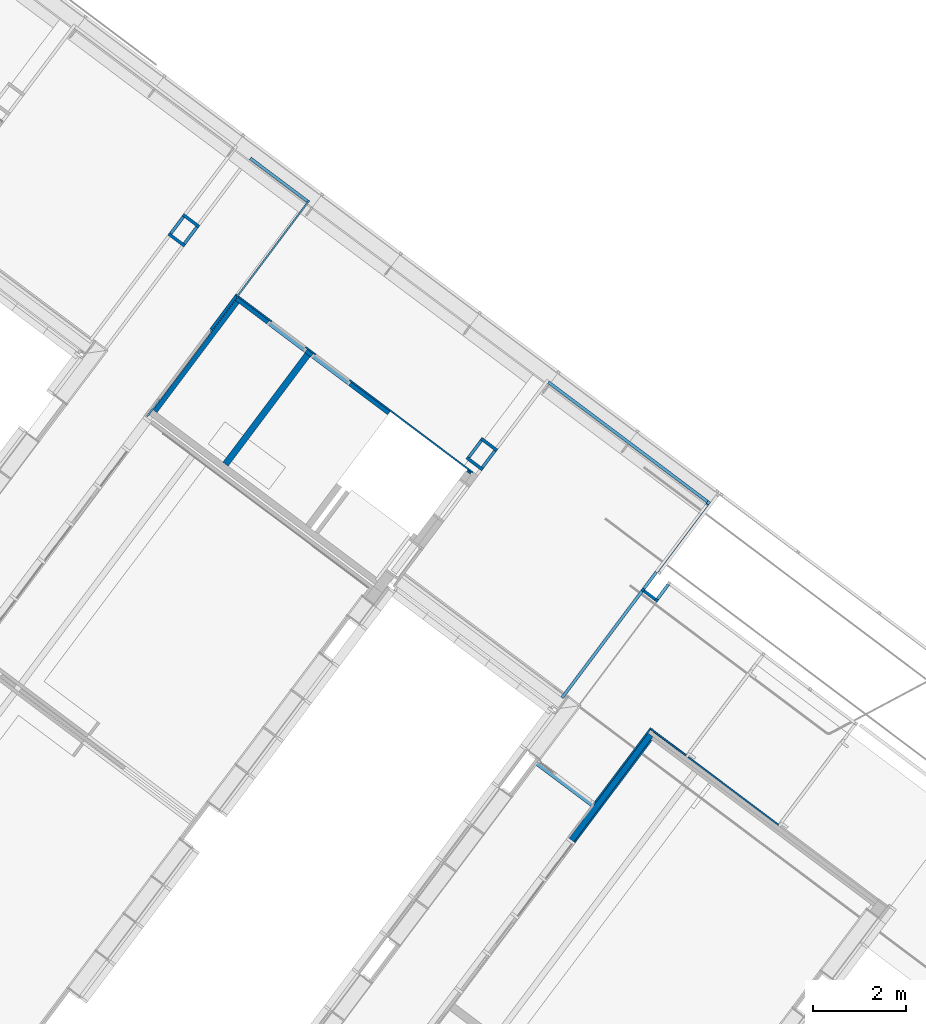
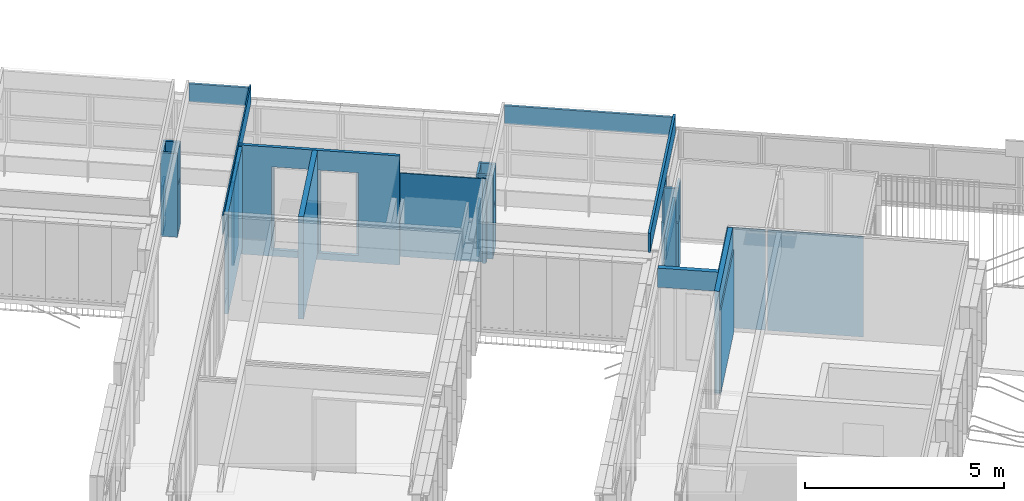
# One storey, part 132 of 243: 34 walls, 4 openings.
"""IFC2X3 building model written with IfcOpenShell, lengths in metres."""

from ifc_helpers import new_model, entity, si_unit, converted_unit, derived_unit, direction, frame, frame_2d, origin, origin_2d_with_axis, place, context, subcontext, project, spatial, rectangle, extrude, material, layer, layer_set, layer_usage, type_object, element, save


model = new_model("IFC2X3")

# Units and contexts
model_context = context("Model", 3, precision=1e-05, world=origin(), true_north=direction((6.123031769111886e-17, 1.0)))
body_context = subcontext(model_context, "Body", "Model", "MODEL_VIEW")
ifc_project = project(units=[si_unit("LENGTHUNIT", "METRE"), si_unit("AREAUNIT", "SQUARE_METRE"), si_unit("VOLUMEUNIT", "CUBIC_METRE"), converted_unit("PLANEANGLEUNIT", "DEGREE", entity("IfcRatioMeasure", 0.017453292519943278), si_unit("PLANEANGLEUNIT", "RADIAN"), dimensions=[0, 0, 0, 0, 0, 0, 0]), si_unit("MASSUNIT", "GRAM", prefix="KILO"), derived_unit("MASSDENSITYUNIT", [(si_unit("MASSUNIT", "GRAM", prefix="KILO"), 1), (si_unit("LENGTHUNIT", "METRE"), -3)]), derived_unit("IONCONCENTRATIONUNIT", [(si_unit("MASSUNIT", "GRAM", prefix="KILO"), 1), (si_unit("LENGTHUNIT", "METRE"), -3)]), derived_unit("MOMENTOFINERTIAUNIT", [(si_unit("LENGTHUNIT", "METRE"), 4)]), si_unit("TIMEUNIT", "SECOND"), si_unit("FREQUENCYUNIT", "HERTZ"), si_unit("THERMODYNAMICTEMPERATUREUNIT", "DEGREE_CELSIUS"), derived_unit("THERMALTRANSMITTANCEUNIT", [(si_unit("MASSUNIT", "GRAM", prefix="KILO"), 1), (si_unit("THERMODYNAMICTEMPERATUREUNIT", "KELVIN"), -1), (si_unit("TIMEUNIT", "SECOND"), -3)]), derived_unit("THERMALCONDUCTANCEUNIT", [(si_unit("MASSUNIT", "GRAM", prefix="KILO"), 1), (si_unit("THERMODYNAMICTEMPERATUREUNIT", "KELVIN"), -1), (si_unit("TIMEUNIT", "SECOND"), -3), (si_unit("LENGTHUNIT", "METRE"), 1)]), derived_unit("VOLUMETRICFLOWRATEUNIT", [(si_unit("LENGTHUNIT", "METRE"), 3), (si_unit("TIMEUNIT", "SECOND"), -1)]), derived_unit("MASSFLOWRATEUNIT", [(si_unit("MASSUNIT", "GRAM", prefix="KILO"), 1), (si_unit("TIMEUNIT", "SECOND"), -1)]), derived_unit("ROTATIONALFREQUENCYUNIT", [(si_unit("TIMEUNIT", "SECOND"), -1)]), si_unit("ELECTRICCURRENTUNIT", "AMPERE"), si_unit("ELECTRICVOLTAGEUNIT", "VOLT"), si_unit("POWERUNIT", "WATT"), si_unit("FORCEUNIT", "NEWTON", prefix="KILO"), si_unit("ILLUMINANCEUNIT", "LUX"), si_unit("LUMINOUSFLUXUNIT", "LUMEN"), si_unit("LUMINOUSINTENSITYUNIT", "CANDELA"), derived_unit("USERDEFINED", [(si_unit("MASSUNIT", "GRAM", prefix="KILO"), -1), (si_unit("LENGTHUNIT", "METRE"), -2), (si_unit("TIMEUNIT", "SECOND"), 3), (si_unit("LUMINOUSFLUXUNIT", "LUMEN"), 1)]), derived_unit("USERDEFINED", [(si_unit("MASSUNIT", "GRAM", prefix="KILO"), 1), (si_unit("TIMEUNIT", "SECOND"), -3), (si_unit("LENGTHUNIT", "METRE"), 3), (si_unit("ELECTRICCURRENTUNIT", "AMPERE"), -2)]), derived_unit("SOUNDPOWERUNIT", [(si_unit("MASSUNIT", "GRAM", prefix="KILO"), 1), (si_unit("TIMEUNIT", "SECOND"), -3), (si_unit("LENGTHUNIT", "METRE"), 2)]), derived_unit("SOUNDPRESSUREUNIT", [(si_unit("MASSUNIT", "GRAM", prefix="KILO"), 1), (si_unit("LENGTHUNIT", "METRE"), -1), (si_unit("TIMEUNIT", "SECOND"), -2)]), derived_unit("LINEARVELOCITYUNIT", [(si_unit("LENGTHUNIT", "METRE"), 1), (si_unit("TIMEUNIT", "SECOND"), -1)]), si_unit("PRESSUREUNIT", "PASCAL"), derived_unit("USERDEFINED", [(si_unit("MASSUNIT", "GRAM", prefix="KILO"), 1), (si_unit("LENGTHUNIT", "METRE"), -2), (si_unit("TIMEUNIT", "SECOND"), -2)]), derived_unit("LINEARFORCEUNIT", [(si_unit("MASSUNIT", "GRAM", prefix="KILO"), 1), (si_unit("TIMEUNIT", "SECOND"), -2)]), derived_unit("PLANARFORCEUNIT", [(si_unit("MASSUNIT", "GRAM", prefix="KILO"), 1), (si_unit("LENGTHUNIT", "METRE"), -1), (si_unit("TIMEUNIT", "SECOND"), -2)]), derived_unit("SPECIFICHEATCAPACITYUNIT", [(si_unit("THERMODYNAMICTEMPERATUREUNIT", "KELVIN"), -1), (si_unit("LENGTHUNIT", "METRE"), 2), (si_unit("TIMEUNIT", "SECOND"), -2)]), derived_unit("HEATINGVALUEUNIT", [(si_unit("LENGTHUNIT", "METRE"), 2), (si_unit("TIMEUNIT", "SECOND"), -2)]), derived_unit("VAPORPERMEABILITYUNIT", [(si_unit("LENGTHUNIT", "METRE"), -1), (si_unit("TIMEUNIT", "SECOND"), 1)]), derived_unit("DYNAMICVISCOSITYUNIT", [(si_unit("MASSUNIT", "GRAM", prefix="KILO"), 1), (si_unit("TIMEUNIT", "SECOND"), -1), (si_unit("LENGTHUNIT", "METRE"), -1)]), derived_unit("THERMALEXPANSIONCOEFFICIENTUNIT", [(si_unit("THERMODYNAMICTEMPERATUREUNIT", "KELVIN"), -1)]), derived_unit("MODULUSOFELASTICITYUNIT", [(si_unit("MASSUNIT", "GRAM", prefix="KILO"), 1), (si_unit("LENGTHUNIT", "METRE"), -1), (si_unit("TIMEUNIT", "SECOND"), -2)]), derived_unit("ISOTHERMALMOISTURECAPACITYUNIT", [(si_unit("LENGTHUNIT", "METRE"), 3), (si_unit("MASSUNIT", "GRAM", prefix="KILO"), -1)]), derived_unit("MOISTUREDIFFUSIVITYUNIT", [(si_unit("TIMEUNIT", "SECOND"), -1), (si_unit("LENGTHUNIT", "METRE"), 2)])], contexts=[model_context])

# Site, building, storey
site_placement = place(None, frame((0.0, 0.0, 235.0), z_axis=(0.0, 0.0, 1.0), x_axis=(-0.7996477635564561, 0.6004693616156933, 0.0)))
site = spatial("IfcSite", under=ifc_project, at=site_placement, Name="Default", CompositionType="ELEMENT")
building_placement = place(site_placement, origin())
building = spatial("IfcBuilding", under=site, at=building_placement, CompositionType="ELEMENT")
storey_placement = place(building_placement, origin())
storey = spatial("IfcBuildingStorey", under=building, at=storey_placement, Name="P0- Escola", CompositionType="ELEMENT", Elevation=0.0)

# Walls
ifc_material_1 = material(Name="_Enguixat i pintat- REV")
ifc_layer_1 = layer(ifc_material_1, 0.01)
ifc_material_2 = material(Name="_Ceràmica- ENV")
ifc_layer_2 = layer(ifc_material_2, 0.09)
ifc_layer_set_1 = layer_set([ifc_layer_1, ifc_layer_2], Name="Muro básico:ENV- Ceràmic- 9 cm + Arrebossat i pintat")
ifc_layer_usage_1 = layer_usage(ifc_layer_set_1, "AXIS2", "NEGATIVE", 0.049999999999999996)
wall_type_1 = type_object("IfcWallType", Name="Muro básico:ENV- Ceràmic- 9 cm + Arrebossat i pintat", PredefinedType="STANDARD", material=ifc_layer_set_1)
wall_1_placement = place(storey_placement, frame((47.355147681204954, -36.438189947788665, 0.0), z_axis=(0.0, 0.0, 1.0), x_axis=(0.0, -1.0, 0.0)))
element("IfcWallStandardCase", 1, at=wall_1_placement, inside=storey, type_object=wall_type_1, material=ifc_layer_usage_1, Name="Muro básico:ENV- Ceràmic- 9 cm + Arrebossat i pintat", ObjectType="Muro básico:ENV- Ceràmic- 9 cm + Arrebossat i pintat", context=body_context, shape_type="SweptSolid", body=[
    extrude(rectangle(XDim=2.934999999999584, YDim=0.0999999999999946, at=frame_2d((1.467499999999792, 0.0), x_axis=(-1.0, 0.0))), origin(), (0.0, 0.0, 1.0), 3.100000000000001),
])
ifc_layer_3 = layer(ifc_material_2, 0.14)
ifc_layer_set_2 = layer_set([ifc_layer_3], Name="Muro básico:ENV- Ceràmic- 14 cm")
ifc_layer_usage_2 = layer_usage(ifc_layer_set_2, "AXIS2", "NEGATIVE", 0.07)
wall_type_2 = type_object("IfcWallType", Name="Muro básico:ENV- Ceràmic- 14 cm", PredefinedType="STANDARD", material=ifc_layer_set_2)
wall_2_placement = place(storey_placement, frame((45.465147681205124, -39.37318994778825, 0.0), z_axis=(0.0, 0.0, 1.0), x_axis=(0.0, 1.0, 0.0)))
element("IfcWallStandardCase", 2, at=wall_2_placement, inside=storey, type_object=wall_type_2, material=ifc_layer_usage_2, Name="Muro básico:ENV- Ceràmic- 14 cm", ObjectType="Muro básico:ENV- Ceràmic- 14 cm", context=body_context, shape_type="SweptSolid", body=[
    extrude(rectangle(XDim=2.9349999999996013, YDim=0.14000000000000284, at=frame_2d((1.4674999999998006, -8.326672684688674e-17), x_axis=(-1.0, 0.0))), origin(), (0.0, 0.0, 1.0), 3.150000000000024),
])
ifc_material_3 = material(Name="_Fusta massisa- T1-  REV- PAV")
ifc_layer_4 = layer(ifc_material_3, 0.015)
ifc_material_4 = material(Name="_Genèric perfils, muntants, rastrells")
ifc_layer_5 = layer(ifc_material_4, 0.05)
ifc_layer_set_3 = layer_set([ifc_layer_4, ifc_layer_5], Name="Muro básico:REV- Fusta- T1- 6,5 cm")
ifc_layer_usage_3 = layer_usage(ifc_layer_set_3, "AXIS2", "NEGATIVE", 0.0325)
wall_type_3 = type_object("IfcWallType", Name="Muro básico:REV- Fusta- T1- 6,5 cm", PredefinedType="STANDARD", material=ifc_layer_set_3)
wall_3_placement = place(storey_placement, frame((47.447647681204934, -38.56268994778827, 0.0), z_axis=(0.0, 0.0, 1.0), x_axis=(0.0, -1.0, 0.0)))
element("IfcWallStandardCase", 3, at=wall_3_placement, inside=storey, type_object=wall_type_3, material=ifc_layer_usage_3, Name="Muro básico:REV- Fusta- T1- 6,5 cm", ObjectType="Muro básico:REV- Fusta- T1- 6,5 cm", context=body_context, shape_type="SweptSolid", body=[
    extrude(rectangle(XDim=0.9004999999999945, YDim=0.06500000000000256, at=frame_2d((0.45024999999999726, 0.0), x_axis=(-1.0, 0.0))), origin(), (0.0, 0.0, 1.0), 2.565),
])
wall_4_placement = place(storey_placement, frame((41.01264768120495, -40.14019175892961, 0.0), z_axis=(0.0, 0.0, 1.0), x_axis=(0.0, 1.0, 0.0)))
element("IfcWallStandardCase", 4, at=wall_4_placement, inside=storey, type_object=wall_type_3, material=ifc_layer_usage_3, Name="Muro básico:REV- Fusta- T1- 6,5 cm", ObjectType="Muro básico:REV- Fusta- T1- 6,5 cm", context=body_context, shape_type="SweptSolid", body=[
    extrude(rectangle(XDim=0.45000000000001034, YDim=0.06500000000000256, at=frame_2d((0.22500000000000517, 0.0), x_axis=(-1.0, 0.0))), origin(), (0.0, 0.0, 1.0), 1.4999999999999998),
])
ifc_layer_usage_4 = layer_usage(ifc_layer_set_3, "AXIS2", "POSITIVE", -0.0325)
wall_5_placement = place(storey_placement, frame((41.377647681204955, -40.14019175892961, 0.0), z_axis=(0.0, 0.0, 1.0), x_axis=(0.0, 1.0, 0.0)))
element("IfcWallStandardCase", 5, at=wall_5_placement, inside=storey, type_object=wall_type_3, material=ifc_layer_usage_4, Name="Muro básico:REV- Fusta- T1- 6,5 cm", ObjectType="Muro básico:REV- Fusta- T1- 6,5 cm", context=body_context, shape_type="SweptSolid", body=[
    extrude(rectangle(XDim=0.45000000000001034, YDim=0.06500000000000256, at=frame_2d((0.22500000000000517, 0.0), x_axis=(-1.0, 0.0))), origin(), (0.0, 0.0, 1.0), 1.4999999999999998),
])
wall_6_placement = place(storey_placement, frame((41.41014768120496, -39.6576917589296, 0.0), z_axis=(0.0, 0.0, 1.0), x_axis=(-1.0, 0.0, 0.0)))
element("IfcWallStandardCase", 6, at=wall_6_placement, inside=storey, type_object=wall_type_3, material=ifc_layer_usage_4, Name="Muro básico:REV- Fusta- T1- 6,5 cm", ObjectType="Muro básico:REV- Fusta- T1- 6,5 cm", context=body_context, shape_type="SweptSolid", body=[
    extrude(rectangle(XDim=0.4300000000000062, YDim=0.06500000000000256, at=frame_2d((0.2150000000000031, 0.0), x_axis=(-1.0, 0.0))), origin(), (0.0, 0.0, 1.0), 2.5650000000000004),
])
wall_7_placement = place(storey_placement, frame((41.41014768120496, -40.172691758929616, 0.0), z_axis=(0.0, 0.0, 1.0), x_axis=(-1.0, 0.0, 0.0)))
element("IfcWallStandardCase", 7, at=wall_7_placement, inside=storey, type_object=wall_type_3, material=ifc_layer_usage_3, Name="Muro básico:REV- Fusta- T1- 6,5 cm", ObjectType="Muro básico:REV- Fusta- T1- 6,5 cm", context=body_context, shape_type="SweptSolid", body=[
    extrude(rectangle(XDim=0.4300000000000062, YDim=0.06500000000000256, at=frame_2d((0.2150000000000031, 0.0), x_axis=(-1.0, 0.0))), origin(), (0.0, 0.0, 1.0), 2.5650000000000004),
])
wall_8_placement = place(storey_placement, frame((49.01264768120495, -40.20519175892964, 0.0), z_axis=(0.0, 0.0, 1.0), x_axis=(0.0, 1.0, 0.0)))
element("IfcWallStandardCase", 8, at=wall_8_placement, inside=storey, type_object=wall_type_3, material=ifc_layer_usage_3, Name="Muro básico:REV- Fusta- T1- 6,5 cm", ObjectType="Muro básico:REV- Fusta- T1- 6,5 cm", context=body_context, shape_type="SweptSolid", body=[
    extrude(rectangle(XDim=0.5150000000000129, YDim=0.06500000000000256, at=frame_2d((0.25750000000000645, 0.0), x_axis=(-1.0, 0.0))), origin(), (0.0, 0.0, 1.0), 1.4999999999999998),
])
wall_9_placement = place(storey_placement, frame((49.377647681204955, -40.14019175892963, 0.0), z_axis=(0.0, 0.0, 1.0), x_axis=(0.0, 1.0, 0.0)))
element("IfcWallStandardCase", 9, at=wall_9_placement, inside=storey, type_object=wall_type_3, material=ifc_layer_usage_4, Name="Muro básico:REV- Fusta- T1- 6,5 cm", ObjectType="Muro básico:REV- Fusta- T1- 6,5 cm", context=body_context, shape_type="SweptSolid", body=[
    extrude(rectangle(XDim=0.45000000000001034, YDim=0.06500000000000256, at=frame_2d((0.22500000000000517, 0.0), x_axis=(-1.0, 0.0))), origin(), (0.0, 0.0, 1.0), 1.4999999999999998),
])
wall_10_placement = place(storey_placement, frame((49.41014768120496, -39.65769175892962, 0.0), z_axis=(0.0, 0.0, 1.0), x_axis=(-1.0, 0.0, 0.0)))
element("IfcWallStandardCase", 10, at=wall_10_placement, inside=storey, type_object=wall_type_3, material=ifc_layer_usage_4, Name="Muro básico:REV- Fusta- T1- 6,5 cm", ObjectType="Muro básico:REV- Fusta- T1- 6,5 cm", context=body_context, shape_type="SweptSolid", body=[
    extrude(rectangle(XDim=0.4300000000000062, YDim=0.06500000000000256, at=frame_2d((0.2150000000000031, 0.0), x_axis=(-1.0, 0.0))), origin(), (0.0, 0.0, 1.0), 2.5650000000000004),
])
wall_11_placement = place(storey_placement, frame((49.41014768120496, -40.17269175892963, 0.0), z_axis=(0.0, 0.0, 1.0), x_axis=(-1.0, 0.0, 0.0)))
element("IfcWallStandardCase", 11, at=wall_11_placement, inside=storey, type_object=wall_type_3, material=ifc_layer_usage_3, Name="Muro básico:REV- Fusta- T1- 6,5 cm", ObjectType="Muro básico:REV- Fusta- T1- 6,5 cm", context=body_context, shape_type="SweptSolid", body=[
    extrude(rectangle(XDim=0.4300000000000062, YDim=0.06500000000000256, at=frame_2d((0.2150000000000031, 0.0), x_axis=(-1.0, 0.0))), origin(), (0.0, 0.0, 1.0), 2.5650000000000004),
])
wall_12_placement = place(storey_placement, frame((36.31264768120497, -40.080191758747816, 0.0), z_axis=(0.0, 0.0, 1.0), x_axis=(0.0, 1.0, 0.0)))
element("IfcWallStandardCase", 12, at=wall_12_placement, inside=storey, type_object=wall_type_3, material=ifc_layer_usage_3, Name="Muro básico:REV- Fusta- T1- 6,5 cm", ObjectType="Muro básico:REV- Fusta- T1- 6,5 cm", context=body_context, shape_type="SweptSolid", body=[
    extrude(rectangle(XDim=0.45499999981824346, YDim=0.06500000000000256, at=frame_2d((0.22749999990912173, 0.0), x_axis=(-1.0, 0.0))), origin(), (0.0, 0.0, 1.0), 1.4999999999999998),
])
wall_13_placement = place(storey_placement, frame((36.67763953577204, -40.14019175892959, 0.0), z_axis=(0.0, 0.0, 1.0), x_axis=(0.0, 1.0, 0.0)))
element("IfcWallStandardCase", 13, at=wall_13_placement, inside=storey, type_object=wall_type_3, material=ifc_layer_usage_4, Name="Muro básico:REV- Fusta- T1- 6,5 cm", ObjectType="Muro básico:REV- Fusta- T1- 6,5 cm", context=body_context, shape_type="SweptSolid", body=[
    extrude(rectangle(XDim=0.5150000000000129, YDim=0.06500000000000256, at=frame_2d((0.25750000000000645, 0.0), x_axis=(-1.0, 0.0))), origin(), (0.0, 0.0, 1.0), 1.4999999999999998),
])
wall_14_placement = place(storey_placement, frame((36.710139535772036, -39.65769175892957, 0.0), z_axis=(0.0, 0.0, 1.0), x_axis=(-1.0, 0.0, 0.0)))
element("IfcWallStandardCase", 14, at=wall_14_placement, inside=storey, type_object=wall_type_3, material=ifc_layer_usage_4, Name="Muro básico:REV- Fusta- T1- 6,5 cm", ObjectType="Muro básico:REV- Fusta- T1- 6,5 cm", context=body_context, shape_type="SweptSolid", body=[
    extrude(rectangle(XDim=0.29999185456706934, YDim=0.06500000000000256, at=frame_2d((0.2149959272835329, 0.0), x_axis=(-1.0, 0.0))), origin(), (0.0, 0.0, 1.0), 2.5650000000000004),
])

# Wall, openings
ifc_layer_6 = layer(ifc_material_2, 0.09)
ifc_layer_set_4 = layer_set([ifc_layer_6], Name="Muro básico:ENV- Ceràmic- 9 cm")
ifc_layer_usage_5 = layer_usage(ifc_layer_set_4, "AXIS2", "NEGATIVE", 0.045)
wall_type_4 = type_object("IfcWallType", Name="Muro básico:ENV- Ceràmic- 9 cm", PredefinedType="STANDARD", material=ifc_layer_set_4)
wall_15_placement = place(storey_placement, frame((47.40514768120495, -39.41818994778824, -0.2), z_axis=(0.0, 0.0, 1.0), x_axis=(-1.0, 0.0, 0.0)))
wall_15 = element("IfcWallStandardCase", 15, at=wall_15_placement, inside=storey, type_object=wall_type_4, material=ifc_layer_usage_5, Name="Muro básico:ENV- Ceràmic- 9 cm", ObjectType="Muro básico:ENV- Ceràmic- 9 cm", context=body_context, shape_type="SweptSolid", body=[
    extrude(rectangle(XDim=4.084999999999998, YDim=0.08999999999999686, at=frame_2d((2.042499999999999, 1.4016565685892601e-15), x_axis=(-1.0, 0.0))), origin(), (0.0, 0.0, 1.0), 3.350000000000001),
])
opening_1_placement = place(wall_15_placement, frame((3.039999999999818, 0.04499999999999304, 0.2)))
element("IfcOpeningElement", 16, at=opening_1_placement, cuts=wall_15, Name="FUS- Porta Fusta- marc ocult- obertura interior:FUS- Porta Fusta- marc ocult- 90x250,5 cm:1", ObjectType="Opening", context=body_context, shape_type="SweptSolid", body=[
    extrude(rectangle(XDim=2.544999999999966, YDim=1.0199999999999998, at=frame_2d((1.272499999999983, 0.5099999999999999), x_axis=(1.0, 0.0))), frame((0.0, 0.0, 0.0), z_axis=(0.0, -1.0, 0.0), x_axis=(0.0, 0.0, 1.0)), (0.0, 0.0, 1.0), 0.09),
])
opening_2_placement = place(wall_15_placement, frame((1.8599999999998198, 0.04499999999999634, 0.2)))
element("IfcOpeningElement", 17, at=opening_2_placement, cuts=wall_15, Name="FUS- Porta Fusta- marc ocult- obertura interior:FUS- Porta Fusta- marc ocult- 90x250,5 cm:1", ObjectType="Opening", context=body_context, shape_type="SweptSolid", body=[
    extrude(rectangle(XDim=2.544999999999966, YDim=1.0199999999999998, at=frame_2d((1.272499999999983, 0.5099999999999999), x_axis=(1.0, 0.0))), frame((0.0, 0.0, 0.0), z_axis=(0.0, -1.0, 0.0), x_axis=(0.0, 0.0, 1.0)), (0.0, 0.0, 1.0), 0.09),
])

# Wall
wall_16_placement = place(storey_placement, frame((41.185147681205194, -39.42068994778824, 0.0), z_axis=(0.0, 0.0, 1.0), x_axis=(0.0, -1.0, 0.0)))
element("IfcWallStandardCase", 18, at=wall_16_placement, inside=storey, type_object=wall_type_4, material=ifc_layer_usage_5, Name="Muro básico:ENV- Ceràmic- 9 cm", ObjectType="Muro básico:ENV- Ceràmic- 9 cm", context=body_context, shape_type="SweptSolid", body=[
    extrude(rectangle(XDim=0.042499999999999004, YDim=0.08999999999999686, at=frame_2d((0.021249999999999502, 0.0), x_axis=(-1.0, 0.0))), origin(), (0.0, 0.0, 1.0), 2.6000000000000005),
])

# Wall, openings
ifc_layer_7 = layer(ifc_material_3, 0.015)
ifc_layer_8 = layer(ifc_material_4, 0.02)
ifc_layer_set_5 = layer_set([ifc_layer_7, ifc_layer_8], Name="Muro básico:REV- Fusta- T1- 3,5 cm")
ifc_layer_usage_6 = layer_usage(ifc_layer_set_5, "AXIS2", "NEGATIVE", 0.0175)
wall_type_5 = type_object("IfcWallType", Name="Muro básico:REV- Fusta- T1- 3,5 cm", PredefinedType="STANDARD", material=ifc_layer_set_5)
wall_17_placement = place(storey_placement, frame((47.48014768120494, -39.48068994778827, 0.0), z_axis=(0.0, 0.0, 1.0), x_axis=(-1.0, 0.0, 0.0)))
wall_17 = element("IfcWallStandardCase", 19, at=wall_17_placement, inside=storey, type_object=wall_type_5, material=ifc_layer_usage_6, Name="Muro básico:REV- Fusta- T1- 3,5 cm", ObjectType="Muro básico:REV- Fusta- T1- 3,5 cm", context=body_context, shape_type="SweptSolid", body=[
    extrude(rectangle(XDim=6.364999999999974, YDim=0.03500000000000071, at=frame_2d((3.182499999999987, -5.974387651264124e-15), x_axis=(1.0, 0.0))), origin(), (0.0, 0.0, 1.0), 2.565),
])
opening_3_placement = place(wall_17_placement, frame((3.0599999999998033, 1.541499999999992, 0.0), z_axis=(0.0, 0.0, 1.0), x_axis=(-1.0, 0.0, 0.0)))
element("IfcOpeningElement", 20, at=opening_3_placement, cuts=wall_17, Name="Muro básico:REV- Fusta- T1- 3,5 cm", ObjectType="Opening", context=body_context, shape_type="SweptSolid", body=[
    extrude(rectangle(XDim=2.5049999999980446, YDim=0.910000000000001, at=origin_2d_with_axis()), frame((0.4550000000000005, 3.0480000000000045, 1.2524999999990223), z_axis=(0.0, -1.0, 0.0), x_axis=(0.0, 0.0, 1.0)), (0.0, 0.0, 1.0), 3.0480000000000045),
])
opening_4_placement = place(wall_17_placement, frame((1.879999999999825, 1.5064999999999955, 0.0), z_axis=(0.0, 0.0, 1.0), x_axis=(-1.0, 0.0, 0.0)))
element("IfcOpeningElement", 21, at=opening_4_placement, cuts=wall_17, Name="Muro básico:REV- Fusta- T1- 3,5 cm", ObjectType="Opening", context=body_context, shape_type="SweptSolid", body=[
    extrude(rectangle(XDim=2.5049999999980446, YDim=0.910000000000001, at=frame_2d((0.0, 0.0), x_axis=(0.0, 1.0))), frame((0.4550000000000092, 3.048, 1.2524999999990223), z_axis=(0.0, -1.0, 0.0), x_axis=(1.0, 0.0, 0.0)), (0.0, 0.0, 1.0), 3.048),
])

# Walls
wall_18_placement = place(storey_placement, frame((34.74514768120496, -37.3736917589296, 0.0), z_axis=(0.0, 0.0, 1.0), x_axis=(-1.0, 0.0, 0.0)))
element("IfcWallStandardCase", 22, at=wall_18_placement, inside=storey, type_object=wall_type_5, material=ifc_layer_usage_6, Name="Muro básico:REV- Fusta- T1- 3,5 cm", ObjectType="Muro básico:REV- Fusta- T1- 3,5 cm", context=body_context, shape_type="SweptSolid", body=[
    extrude(rectangle(XDim=0.9440000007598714, YDim=0.03500000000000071, at=frame_2d((0.4720000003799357, 9.783840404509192e-16), x_axis=(-1.0, 0.0))), origin(), (0.0, 0.0, 1.0), 3.0850000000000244),
])
ifc_layer_usage_7 = layer_usage(ifc_layer_set_5, "AXIS2", "POSITIVE", -0.0175)
wall_19_placement = place(storey_placement, frame((34.597647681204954, -34.44519175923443, 0.0), z_axis=(0.0, 0.0, 1.0), x_axis=(0.0, -1.0, 0.0)))
element("IfcWallStandardCase", 23, at=wall_19_placement, inside=storey, type_object=wall_type_5, material=ifc_layer_usage_7, Name="Muro básico:REV- Fusta- T1- 3,5 cm", ObjectType="Muro básico:REV- Fusta- T1- 3,5 cm", context=body_context, shape_type="SweptSolid", body=[
    extrude(rectangle(XDim=2.7449999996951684, YDim=0.03500000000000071, at=frame_2d((1.3724999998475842, 4.649058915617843e-16), x_axis=(-1.0, 0.0))), origin(), (0.0, 0.0, 1.0), 2.5350000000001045),
])
wall_20_placement = place(storey_placement, frame((33.74833899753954, -37.37369175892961, 0.0), z_axis=(0.0, 0.0, 1.0), x_axis=(-1.0, 0.0, 0.0)))
element("IfcWallStandardCase", 24, at=wall_20_placement, inside=storey, type_object=wall_type_5, material=ifc_layer_usage_6, Name="Muro básico:REV- Fusta- T1- 3,5 cm", ObjectType="Muro básico:REV- Fusta- T1- 3,5 cm", context=body_context, shape_type="SweptSolid", body=[
    extrude(rectangle(XDim=2.4271913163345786, YDim=0.03500000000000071, at=frame_2d((1.2135956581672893, -8.881784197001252e-16), x_axis=(-1.0, 0.0))), origin(), (0.0, 0.0, 1.0), 3.0850000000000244),
])
wall_21_placement = place(storey_placement, frame((34.76264768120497, -35.40019175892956, 0.0), z_axis=(0.0, 0.0, 1.0), x_axis=(0.0, -1.0, 0.0)))
element("IfcWallStandardCase", 25, at=wall_21_placement, inside=storey, type_object=wall_type_5, material=ifc_layer_usage_6, Name="Muro básico:REV- Fusta- T1- 3,5 cm", ObjectType="Muro básico:REV- Fusta- T1- 3,5 cm", context=body_context, shape_type="SweptSolid", body=[
    extrude(rectangle(XDim=1.9910000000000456, YDim=0.035000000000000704, at=frame_2d((0.9955000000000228, -9.315465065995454e-16), x_axis=(-1.0, 0.0))), origin(), (0.0, 0.0, 1.0), 3.082000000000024),
])
ifc_material_5 = material(Name="_Guix laminat- ENV")
ifc_layer_9 = layer(ifc_material_5, 0.02)
ifc_material_6 = material(Name="_Aillament")
ifc_layer_10 = layer(ifc_material_6, 0.045)
ifc_layer_set_6 = layer_set([ifc_layer_9, ifc_layer_10], Name="Muro básico:REV- Guix Laminat Extradossat- Aillament- T1- 6,5 cm")
ifc_layer_usage_8 = layer_usage(ifc_layer_set_6, "AXIS2", "POSITIVE", -0.032499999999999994)
wall_type_6 = type_object("IfcWallType", Name="Muro básico:REV- Guix Laminat Extradossat- Aillament- T1- 6,5 cm", PredefinedType="STANDARD", material=ifc_layer_set_6)
wall_22_placement = place(storey_placement, frame((48.98014768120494, -42.007691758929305, 2.535000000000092), z_axis=(0.0, 0.0, 1.0), x_axis=(-1.0, 0.0, 0.0)))
element("IfcWallStandardCase", 26, at=wall_22_placement, inside=storey, type_object=wall_type_6, material=ifc_layer_usage_8, Name="Muro básico:REV- Guix Laminat Extradossat- Aillament- T1- 6,5 cm", ObjectType="Muro básico:REV- Guix Laminat Extradossat- Aillament- T1- 6,5 cm", context=body_context, shape_type="SweptSolid", body=[
    extrude(rectangle(XDim=1.5350000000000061, YDim=0.06500000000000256, at=frame_2d((0.7675000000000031, 0.0), x_axis=(-1.0, 0.0))), origin(), (0.0, 0.0, 1.0), 0.5499999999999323),
])
wall_23_placement = place(storey_placement, frame((40.98014768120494, -42.007691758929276, 2.524999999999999), z_axis=(0.0, 0.0, 1.0), x_axis=(-1.0, 0.0, 0.0)))
element("IfcWallStandardCase", 27, at=wall_23_placement, inside=storey, type_object=wall_type_6, material=ifc_layer_usage_8, Name="Muro básico:REV- Guix Laminat Extradossat- Aillament- T1- 6,5 cm", ObjectType="Muro básico:REV- Guix Laminat Extradossat- Aillament- T1- 6,5 cm", context=body_context, shape_type="SweptSolid", body=[
    extrude(rectangle(XDim=4.269999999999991, YDim=0.06500000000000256, at=frame_2d((2.1349999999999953, 0.0), x_axis=(-1.0, 0.0))), origin(), (0.0, 0.0, 1.0), 0.5600000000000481),
])
wall_24_placement = place(storey_placement, frame((36.67764768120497, -41.96269175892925, 0.0), z_axis=(0.0, 0.0, 1.0), x_axis=(0.0, 1.0, 0.0)))
element("IfcWallStandardCase", 28, at=wall_24_placement, inside=storey, type_object=wall_type_6, material=ifc_layer_usage_8, Name="Muro básico:REV- Guix Laminat Extradossat- Aillament- T1- 6,5 cm", ObjectType="Muro básico:REV- Guix Laminat Extradossat- Aillament- T1- 6,5 cm", context=body_context, shape_type="SweptSolid", body=[
    extrude(rectangle(XDim=1.8224999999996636, YDim=0.06500000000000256, at=frame_2d((0.9112499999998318, 0.0), x_axis=(-1.0, 0.0))), origin(), (0.0, 0.0, 1.0), 0.6550000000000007),
])
wall_25_placement = place(storey_placement, frame((36.67763953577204, -42.040191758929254, 2.5650000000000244), z_axis=(0.0, 0.0, 1.0), x_axis=(0.0, 1.0, 0.0)))
element("IfcWallStandardCase", 29, at=wall_25_placement, inside=storey, type_object=wall_type_6, material=ifc_layer_usage_8, Name="Muro básico:REV- Guix Laminat Extradossat- Aillament- T1- 6,5 cm", ObjectType="Muro básico:REV- Guix Laminat Extradossat- Aillament- T1- 6,5 cm", context=body_context, shape_type="SweptSolid", body=[
    extrude(rectangle(XDim=5.274999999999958, YDim=0.06500000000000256, at=frame_2d((2.637499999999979, 0.0), x_axis=(-1.0, 0.0))), origin(), (0.0, 0.0, 1.0), 0.585000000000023),
])
ifc_layer_11 = layer(ifc_material_5, 0.02)
ifc_layer_12 = layer(ifc_material_6, 0.015)
ifc_layer_set_7 = layer_set([ifc_layer_11, ifc_layer_12], Name="Muro básico:REV- Guix Laminat Extradossat- Aillament- T1- 3,5 cm")
ifc_layer_usage_9 = layer_usage(ifc_layer_set_7, "AXIS2", "POSITIVE", -0.017499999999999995)
wall_type_7 = type_object("IfcWallType", Name="Muro básico:REV- Guix Laminat Extradossat- Aillament- T1- 3,5 cm", PredefinedType="STANDARD", material=ifc_layer_set_7)
wall_26_placement = place(storey_placement, frame((47.42764768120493, -42.040191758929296, 2.565), z_axis=(0.0, 0.0, 1.0), x_axis=(0.0, 1.0, 0.0)))
element("IfcWallStandardCase", 30, at=wall_26_placement, inside=storey, type_object=wall_type_7, material=ifc_layer_usage_9, Name="Muro básico:REV- Guix Laminat Extradossat- Aillament- T1- 3,5 cm", ObjectType="Muro básico:REV- Guix Laminat Extradossat- Aillament- T1- 3,5 cm", context=body_context, shape_type="SweptSolid", body=[
    extrude(rectangle(XDim=5.7899999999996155, YDim=0.034999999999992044, at=frame_2d((2.8949999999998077, 0.0), x_axis=(-1.0, 0.0))), origin(), (0.0, 0.0, 1.0), 0.5850000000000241),
])
ifc_layer_13 = layer(ifc_material_5, 0.015)
ifc_layer_14 = layer(ifc_material_4, 0.05)
ifc_layer_set_8 = layer_set([ifc_layer_13, ifc_layer_14], Name="Muro básico:REV- Guix Laminat Extradossat- T1- 6,5 cm")
ifc_layer_usage_10 = layer_usage(ifc_layer_set_8, "AXIS2", "NEGATIVE", 0.0325)
wall_type_8 = type_object("IfcWallType", Name="Muro básico:REV- Guix Laminat Extradossat- T1- 6,5 cm", PredefinedType="STANDARD", material=ifc_layer_set_8)
wall_27_placement = place(storey_placement, frame((41.01264768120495, -40.14019175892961, 1.5000000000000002), z_axis=(0.0, 0.0, 1.0), x_axis=(0.0, 1.0, 0.0)))
element("IfcWallStandardCase", 31, at=wall_27_placement, inside=storey, type_object=wall_type_8, material=ifc_layer_usage_10, Name="Muro básico:REV- Guix Laminat Extradossat- T1- 6,5 cm", ObjectType="Muro básico:REV- Guix Laminat Extradossat- T1- 6,5 cm", context=body_context, shape_type="SweptSolid", body=[
    extrude(rectangle(XDim=0.45000000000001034, YDim=0.06500000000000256, at=frame_2d((0.22500000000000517, 0.0), x_axis=(-1.0, 0.0))), origin(), (0.0, 0.0, 1.0), 1.0650000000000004),
])
ifc_layer_usage_11 = layer_usage(ifc_layer_set_8, "AXIS2", "POSITIVE", -0.0325)
wall_28_placement = place(storey_placement, frame((41.377647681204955, -40.14019175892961, 1.5000000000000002), z_axis=(0.0, 0.0, 1.0), x_axis=(0.0, 1.0, 0.0)))
element("IfcWallStandardCase", 32, at=wall_28_placement, inside=storey, type_object=wall_type_8, material=ifc_layer_usage_11, Name="Muro básico:REV- Guix Laminat Extradossat- T1- 6,5 cm", ObjectType="Muro básico:REV- Guix Laminat Extradossat- T1- 6,5 cm", context=body_context, shape_type="SweptSolid", body=[
    extrude(rectangle(XDim=0.45000000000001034, YDim=0.06500000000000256, at=frame_2d((0.22500000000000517, 0.0), x_axis=(-1.0, 0.0))), origin(), (0.0, 0.0, 1.0), 1.0650000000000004),
])
wall_29_placement = place(storey_placement, frame((49.01264768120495, -40.14019175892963, 1.5000000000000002), z_axis=(0.0, 0.0, 1.0), x_axis=(0.0, 1.0, 0.0)))
element("IfcWallStandardCase", 33, at=wall_29_placement, inside=storey, type_object=wall_type_8, material=ifc_layer_usage_10, Name="Muro básico:REV- Guix Laminat Extradossat- T1- 6,5 cm", ObjectType="Muro básico:REV- Guix Laminat Extradossat- T1- 6,5 cm", context=body_context, shape_type="SweptSolid", body=[
    extrude(rectangle(XDim=0.45000000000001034, YDim=0.06500000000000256, at=frame_2d((0.22500000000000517, 0.0), x_axis=(-1.0, 0.0))), origin(), (0.0, 0.0, 1.0), 1.0650000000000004),
])
wall_30_placement = place(storey_placement, frame((49.377647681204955, -40.14019175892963, 1.5000000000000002), z_axis=(0.0, 0.0, 1.0), x_axis=(0.0, 1.0, 0.0)))
element("IfcWallStandardCase", 34, at=wall_30_placement, inside=storey, type_object=wall_type_8, material=ifc_layer_usage_11, Name="Muro básico:REV- Guix Laminat Extradossat- T1- 6,5 cm", ObjectType="Muro básico:REV- Guix Laminat Extradossat- T1- 6,5 cm", context=body_context, shape_type="SweptSolid", body=[
    extrude(rectangle(XDim=0.45000000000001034, YDim=0.06500000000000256, at=frame_2d((0.22500000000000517, 0.0), x_axis=(-1.0, 0.0))), origin(), (0.0, 0.0, 1.0), 1.0650000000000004),
])
wall_31_placement = place(storey_placement, frame((36.31264768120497, -40.080191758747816, 1.5000000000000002), z_axis=(0.0, 0.0, 1.0), x_axis=(0.0, 1.0, 0.0)))
element("IfcWallStandardCase", 35, at=wall_31_placement, inside=storey, type_object=wall_type_8, material=ifc_layer_usage_10, Name="Muro básico:REV- Guix Laminat Extradossat- T1- 6,5 cm", ObjectType="Muro básico:REV- Guix Laminat Extradossat- T1- 6,5 cm", context=body_context, shape_type="SweptSolid", body=[
    extrude(rectangle(XDim=0.3899999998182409, YDim=0.06500000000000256, at=frame_2d((0.19499999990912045, 0.0), x_axis=(-1.0, 0.0))), origin(), (0.0, 0.0, 1.0), 1.0650000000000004),
])
wall_32_placement = place(storey_placement, frame((36.67763953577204, -40.14019175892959, 1.5000000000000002), z_axis=(0.0, 0.0, 1.0), x_axis=(0.0, 1.0, 0.0)))
element("IfcWallStandardCase", 36, at=wall_32_placement, inside=storey, type_object=wall_type_8, material=ifc_layer_usage_11, Name="Muro básico:REV- Guix Laminat Extradossat- T1- 6,5 cm", ObjectType="Muro básico:REV- Guix Laminat Extradossat- T1- 6,5 cm", context=body_context, shape_type="SweptSolid", body=[
    extrude(rectangle(XDim=0.45000000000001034, YDim=0.06500000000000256, at=frame_2d((0.22500000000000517, 0.0), x_axis=(-1.0, 0.0))), origin(), (0.0, 0.0, 1.0), 1.0650000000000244),
])
ifc_layer_15 = layer(ifc_material_5, 0.03)
ifc_layer_16 = layer(ifc_material_4, 0.07)
ifc_layer_17 = layer(ifc_material_5, 0.03)
ifc_layer_set_9 = layer_set([ifc_layer_15, ifc_layer_16, ifc_layer_17], Name="Muro básico:ENV- Guix Laminat- 13 cm")
ifc_layer_usage_12 = layer_usage(ifc_layer_set_9, "AXIS2", "NEGATIVE", 0.06499999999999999)
wall_type_9 = type_object("IfcWallType", Name="Muro básico:ENV- Guix Laminat- 13 cm", PredefinedType="STANDARD", material=ifc_layer_set_9)
wall_33_placement = place(storey_placement, frame((34.68014768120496, -37.2661917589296, 0.0), z_axis=(0.0, 0.0, 1.0), x_axis=(0.0, 1.0, 0.0)))
element("IfcWallStandardCase", 37, at=wall_33_placement, inside=storey, type_object=wall_type_9, material=ifc_layer_usage_12, Name="Muro básico:ENV- Guix Laminat- 13 cm", ObjectType="Muro básico:ENV- Guix Laminat- 13 cm", context=body_context, shape_type="SweptSolid", body=[
    extrude(rectangle(XDim=2.8209999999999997, YDim=0.12999999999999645, at=frame_2d((1.4104999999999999, -1.1796119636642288e-16), x_axis=(-1.0, 0.0))), origin(), (0.0, 0.0, 1.0), 3.150000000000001),
])
wall_34_placement = place(storey_placement, frame((34.74514768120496, -35.33519175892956, 2.565)))
element("IfcWallStandardCase", 38, at=wall_34_placement, inside=storey, type_object=wall_type_9, material=ifc_layer_usage_12, Name="Muro básico:ENV- Guix Laminat- 13 cm", ObjectType="Muro básico:ENV- Guix Laminat- 13 cm", context=body_context, shape_type="SweptSolid", body=[
    extrude(rectangle(XDim=1.5349999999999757, YDim=0.12999999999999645, at=frame_2d((0.7674999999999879, -3.469446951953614e-16), x_axis=(-1.0, 0.0))), origin(), (0.0, 0.0, 1.0), 0.5850000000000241),
])

save(model, "model.ifc")
